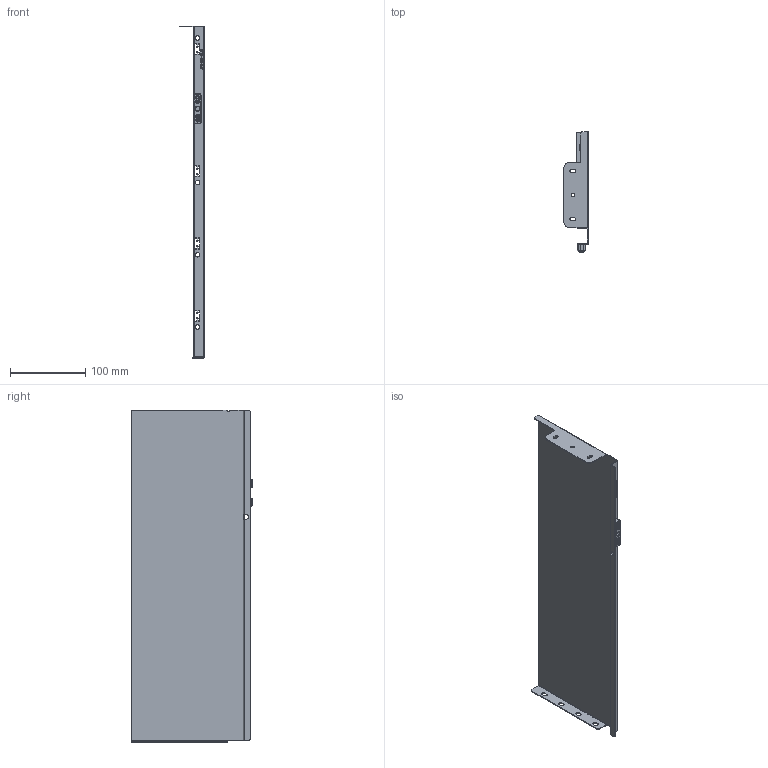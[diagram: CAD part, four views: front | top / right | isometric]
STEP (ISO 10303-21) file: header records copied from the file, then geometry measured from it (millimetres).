
FILE_DESCRIPTION (( 'STEP AP203' ), '1' );
FILE_NAME ('HL13450R.STEP', '2021-07-31T00:43:23', ( 'Users' ), ( 'Microsoft' ), 'SwSTEP 2.0', 'SolidWorks 2018', '' );
FILE_SCHEMA (( 'CONFIG_CONTROL_DESIGN' ));
Length unit declared in the file: millimetre
Products named in the file (1): HL13450R
Bounding box: 32.6 x 159.7 x 441.2 mm (x, y, z)
Volume: 97880.2 mm3; surface area: 162027.5 mm2
Topology: 1 solids, 1 shells, 455 faces, 1242 edges, 806 vertices
Faces by surface type: plane 177, cylinder 169, torus 55, bspline 52, cone 2
Entity records: 17450 total; most frequent: CARTESIAN_POINT 5770, ORIENTED_EDGE 2476, DIRECTION 2393, EDGE_CURVE 1238, AXIS2_PLACEMENT_3D 859, VERTEX_POINT 806, VECTOR 675, LINE 675
